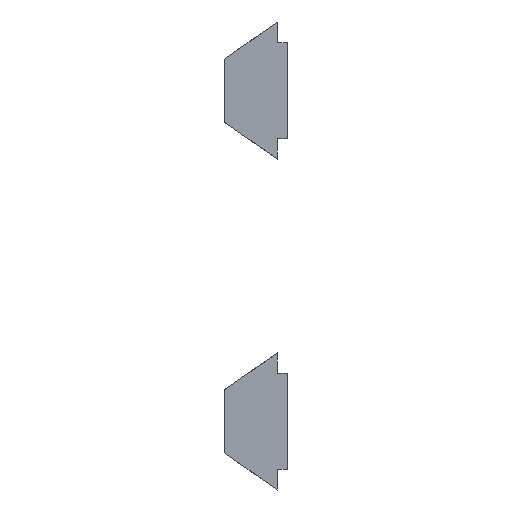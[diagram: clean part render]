
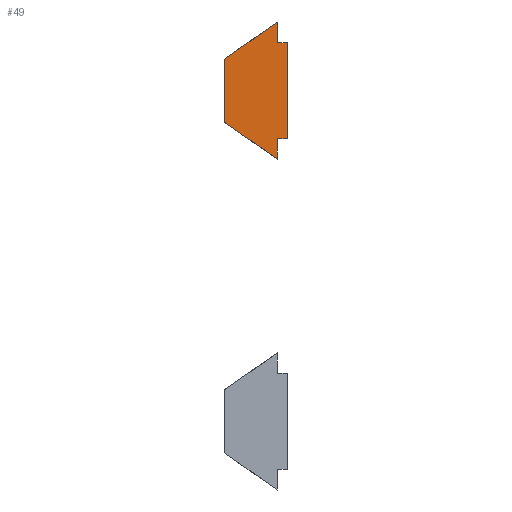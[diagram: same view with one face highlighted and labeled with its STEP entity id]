
A CAD part, left-side view. The second image highlights one B-rep face of the part: STEP entity #49.
In plain terms, the highlighted planar face has unit normal (-1, 0, 0) as drawn and (0, -1, 0) by its records, which use the part's own axes.
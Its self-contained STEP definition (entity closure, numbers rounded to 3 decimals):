
#49=ADVANCED_FACE('',(#62),#511,.T.);
#62=FACE_OUTER_BOUND('',#76,.T.);
#76=EDGE_LOOP('',(#120,#121,#122,#123,#124,#125,#126,#127));
#120=ORIENTED_EDGE('',*,*,#370,.F.);
#121=ORIENTED_EDGE('',*,*,#367,.F.);
#122=ORIENTED_EDGE('',*,*,#362,.F.);
#123=ORIENTED_EDGE('',*,*,#359,.F.);
#124=ORIENTED_EDGE('',*,*,#356,.F.);
#125=ORIENTED_EDGE('',*,*,#353,.F.);
#126=ORIENTED_EDGE('',*,*,#372,.T.);
#127=ORIENTED_EDGE('',*,*,#345,.F.);
#165=PCURVE('',#503,#237);
#174=PCURVE('',#505,#246);
#178=PCURVE('',#506,#250);
#182=PCURVE('',#507,#254);
#186=PCURVE('',#508,#258);
#192=PCURVE('',#509,#264);
#196=PCURVE('',#510,#268);
#200=PCURVE('',#511,#272);
#201=PCURVE('',#511,#273);
#202=PCURVE('',#511,#274);
#203=PCURVE('',#511,#275);
#204=PCURVE('',#511,#276);
#205=PCURVE('',#511,#277);
#206=PCURVE('',#511,#278);
#207=PCURVE('',#511,#279);
#224=PCURVE('',#504,#296);
#237=DEFINITIONAL_REPRESENTATION('',(#386),#1059);
#246=DEFINITIONAL_REPRESENTATION('',(#401),#1059);
#250=DEFINITIONAL_REPRESENTATION('',(#408),#1059);
#254=DEFINITIONAL_REPRESENTATION('',(#415),#1059);
#258=DEFINITIONAL_REPRESENTATION('',(#422),#1059);
#264=DEFINITIONAL_REPRESENTATION('',(#431),#1059);
#268=DEFINITIONAL_REPRESENTATION('',(#438),#1059);
#272=DEFINITIONAL_REPRESENTATION('',(#443),#1059);
#273=DEFINITIONAL_REPRESENTATION('',(#444),#1059);
#274=DEFINITIONAL_REPRESENTATION('',(#445),#1059);
#275=DEFINITIONAL_REPRESENTATION('',(#446),#1059);
#276=DEFINITIONAL_REPRESENTATION('',(#447),#1059);
#277=DEFINITIONAL_REPRESENTATION('',(#448),#1059);
#278=DEFINITIONAL_REPRESENTATION('',(#450),#1059);
#279=DEFINITIONAL_REPRESENTATION('',(#451),#1059);
#296=DEFINITIONAL_REPRESENTATION('',(#468),#1059);
#309=SURFACE_CURVE('',#385,(#165,#207),.PCURVE_S1.);
#317=SURFACE_CURVE('',#400,(#174,#205),.PCURVE_S1.);
#320=SURFACE_CURVE('',#407,(#178,#204),.PCURVE_S1.);
#323=SURFACE_CURVE('',#414,(#182,#203),.PCURVE_S1.);
#326=SURFACE_CURVE('',#421,(#186,#202),.PCURVE_S1.);
#331=SURFACE_CURVE('',#430,(#192,#201),.PCURVE_S1.);
#334=SURFACE_CURVE('',#437,(#196,#200),.PCURVE_S1.);
#336=SURFACE_CURVE('',#449,(#206,#224),.PCURVE_S1.);
#345=EDGE_CURVE('',#477,#478,#309,.T.);
#353=EDGE_CURVE('',#481,#483,#317,.T.);
#356=EDGE_CURVE('',#483,#485,#320,.T.);
#359=EDGE_CURVE('',#485,#487,#323,.T.);
#362=EDGE_CURVE('',#487,#489,#326,.T.);
#367=EDGE_CURVE('',#489,#491,#331,.T.);
#370=EDGE_CURVE('',#491,#477,#334,.T.);
#372=EDGE_CURVE('',#481,#478,#336,.T.);
#385=B_SPLINE_CURVE_WITH_KNOTS('',1,(#714,#715),.UNSPECIFIED.,.F.,.F.,(2,
2),(-3.906,0.),.UNSPECIFIED.);
#386=B_SPLINE_CURVE_WITH_KNOTS('',1,(#716,#717),.UNSPECIFIED.,.F.,.F.,(2,
2),(-3.906,0.),.UNSPECIFIED.);
#400=B_SPLINE_CURVE_WITH_KNOTS('',1,(#790,#791),.UNSPECIFIED.,.F.,.F.,(2,
2),(3.819,7.725),.UNSPECIFIED.);
#401=B_SPLINE_CURVE_WITH_KNOTS('',1,(#792,#793),.UNSPECIFIED.,.F.,.F.,(2,
2),(3.819,7.725),.UNSPECIFIED.);
#407=B_SPLINE_CURVE_WITH_KNOTS('',1,(#804,#805),.UNSPECIFIED.,.F.,.F.,(2,
2),(7.725,8.975),.UNSPECIFIED.);
#408=B_SPLINE_CURVE_WITH_KNOTS('',1,(#806,#807),.UNSPECIFIED.,.F.,.F.,(2,
2),(7.725,8.975),.UNSPECIFIED.);
#414=B_SPLINE_CURVE_WITH_KNOTS('',1,(#818,#819),.UNSPECIFIED.,.F.,.F.,(2,
2),(8.975,9.575),.UNSPECIFIED.);
#415=B_SPLINE_CURVE_WITH_KNOTS('',1,(#820,#821),.UNSPECIFIED.,.F.,.F.,(2,
2),(8.975,9.575),.UNSPECIFIED.);
#421=B_SPLINE_CURVE_WITH_KNOTS('',1,(#832,#833),.UNSPECIFIED.,.F.,.F.,(2,
2),(9.575,15.375),.UNSPECIFIED.);
#422=B_SPLINE_CURVE_WITH_KNOTS('',1,(#834,#835),.UNSPECIFIED.,.F.,.F.,(2,
2),(9.575,15.375),.UNSPECIFIED.);
#430=B_SPLINE_CURVE_WITH_KNOTS('',1,(#906,#907),.UNSPECIFIED.,.F.,.F.,(2,
2),(15.375,15.975),.UNSPECIFIED.);
#431=B_SPLINE_CURVE_WITH_KNOTS('',1,(#908,#909),.UNSPECIFIED.,.F.,.F.,(2,
2),(15.375,15.975),.UNSPECIFIED.);
#437=B_SPLINE_CURVE_WITH_KNOTS('',1,(#920,#921),.UNSPECIFIED.,.F.,.F.,(2,
2),(15.975,17.225),.UNSPECIFIED.);
#438=B_SPLINE_CURVE_WITH_KNOTS('',1,(#922,#923),.UNSPECIFIED.,.F.,.F.,(2,
2),(15.975,17.225),.UNSPECIFIED.);
#443=B_SPLINE_CURVE_WITH_KNOTS('',1,(#932,#933),.UNSPECIFIED.,.F.,.F.,(2,
2),(15.975,17.225),.UNSPECIFIED.);
#444=B_SPLINE_CURVE_WITH_KNOTS('',1,(#934,#935),.UNSPECIFIED.,.F.,.F.,(2,
2),(15.375,15.975),.UNSPECIFIED.);
#445=B_SPLINE_CURVE_WITH_KNOTS('',1,(#936,#937),.UNSPECIFIED.,.F.,.F.,(2,
2),(9.575,15.375),.UNSPECIFIED.);
#446=B_SPLINE_CURVE_WITH_KNOTS('',1,(#938,#939),.UNSPECIFIED.,.F.,.F.,(2,
2),(8.975,9.575),.UNSPECIFIED.);
#447=B_SPLINE_CURVE_WITH_KNOTS('',1,(#940,#941),.UNSPECIFIED.,.F.,.F.,(2,
2),(7.725,8.975),.UNSPECIFIED.);
#448=B_SPLINE_CURVE_WITH_KNOTS('',1,(#942,#943),.UNSPECIFIED.,.F.,.F.,(2,
2),(3.819,7.725),.UNSPECIFIED.);
#449=B_SPLINE_CURVE_WITH_KNOTS('',1,(#944,#945),.UNSPECIFIED.,.F.,.F.,(2,
2),(-3.819,0.),.UNSPECIFIED.);
#450=B_SPLINE_CURVE_WITH_KNOTS('',1,(#946,#947),.UNSPECIFIED.,.F.,.F.,(2,
2),(-3.819,0.),.UNSPECIFIED.);
#451=B_SPLINE_CURVE_WITH_KNOTS('',1,(#948,#949),.UNSPECIFIED.,.F.,.F.,(2,
2),(-3.906,0.),.UNSPECIFIED.);
#468=B_SPLINE_CURVE_WITH_KNOTS('',1,(#1011,#1012),.UNSPECIFIED.,.F.,.F.,
(2,2),(-3.819,0.),.UNSPECIFIED.);
#477=VERTEX_POINT('',#644);
#478=VERTEX_POINT('',#645);
#481=VERTEX_POINT('',#648);
#483=VERTEX_POINT('',#650);
#485=VERTEX_POINT('',#652);
#487=VERTEX_POINT('',#654);
#489=VERTEX_POINT('',#656);
#491=VERTEX_POINT('',#658);
#503=PLANE('',#557);
#504=PLANE('',#558);
#505=PLANE('',#559);
#506=PLANE('',#560);
#507=PLANE('',#561);
#508=PLANE('',#562);
#509=PLANE('',#563);
#510=PLANE('',#564);
#511=PLANE('',#565);
#557=AXIS2_PLACEMENT_3D('',#598,#576,$);
#558=AXIS2_PLACEMENT_3D('',#599,#577,$);
#559=AXIS2_PLACEMENT_3D('',#600,#578,$);
#560=AXIS2_PLACEMENT_3D('',#601,#579,$);
#561=AXIS2_PLACEMENT_3D('',#602,#580,$);
#562=AXIS2_PLACEMENT_3D('',#603,#581,$);
#563=AXIS2_PLACEMENT_3D('',#604,#582,$);
#564=AXIS2_PLACEMENT_3D('',#605,#583,$);
#565=AXIS2_PLACEMENT_3D('',#642,#584,$);
#576=DIRECTION('',(-0.574,0.,-0.819));
#577=DIRECTION('',(-1.,0.,0.));
#578=DIRECTION('',(-0.574,0.,0.819));
#579=DIRECTION('',(1.,0.,0.));
#580=DIRECTION('',(0.,0.,1.));
#581=DIRECTION('',(1.,0.,0.));
#582=DIRECTION('',(0.,0.,-1.));
#583=DIRECTION('',(1.,0.,0.));
#584=DIRECTION('',(0.,-1.,0.));
#598=CARTESIAN_POINT('',(-0.6,-11.,-4.15));
#599=CARTESIAN_POINT('',(-3.8,-11.,-1.909));
#600=CARTESIAN_POINT('',(-3.8,-11.,1.909));
#601=CARTESIAN_POINT('',(-0.6,-11.,4.15));
#602=CARTESIAN_POINT('',(-0.6,-11.,2.9));
#603=CARTESIAN_POINT('',(0.,-11.,2.9));
#604=CARTESIAN_POINT('',(0.,-11.,-2.9));
#605=CARTESIAN_POINT('',(-0.6,-11.,-2.9));
#642=CARTESIAN_POINT('',(-4.275,-11.,5.188));
#644=CARTESIAN_POINT('',(-0.6,-11.,-4.15));
#645=CARTESIAN_POINT('',(-3.8,-11.,-1.909));
#648=CARTESIAN_POINT('',(-3.8,-11.,1.909));
#650=CARTESIAN_POINT('',(-0.6,-11.,4.15));
#652=CARTESIAN_POINT('',(-0.6,-11.,2.9));
#654=CARTESIAN_POINT('',(0.,-11.,2.9));
#656=CARTESIAN_POINT('',(0.,-11.,-2.9));
#658=CARTESIAN_POINT('',(-0.6,-11.,-2.9));
#714=CARTESIAN_POINT('',(-0.6,-11.,-4.15));
#715=CARTESIAN_POINT('',(-3.8,-11.,-1.909));
#716=CARTESIAN_POINT('',(-3.906,0.));
#717=CARTESIAN_POINT('',(0.,0.));
#790=CARTESIAN_POINT('',(-3.8,-11.,1.909));
#791=CARTESIAN_POINT('',(-0.6,-11.,4.15));
#792=CARTESIAN_POINT('',(3.819,0.));
#793=CARTESIAN_POINT('',(7.725,0.));
#804=CARTESIAN_POINT('',(-0.6,-11.,4.15));
#805=CARTESIAN_POINT('',(-0.6,-11.,2.9));
#806=CARTESIAN_POINT('',(7.725,0.));
#807=CARTESIAN_POINT('',(8.975,0.));
#818=CARTESIAN_POINT('',(-0.6,-11.,2.9));
#819=CARTESIAN_POINT('',(0.,-11.,2.9));
#820=CARTESIAN_POINT('',(8.975,0.));
#821=CARTESIAN_POINT('',(9.575,0.));
#832=CARTESIAN_POINT('',(0.,-11.,2.9));
#833=CARTESIAN_POINT('',(0.,-11.,-2.9));
#834=CARTESIAN_POINT('',(9.575,0.));
#835=CARTESIAN_POINT('',(15.375,0.));
#906=CARTESIAN_POINT('',(0.,-11.,-2.9));
#907=CARTESIAN_POINT('',(-0.6,-11.,-2.9));
#908=CARTESIAN_POINT('',(15.375,0.));
#909=CARTESIAN_POINT('',(15.975,0.));
#920=CARTESIAN_POINT('',(-0.6,-11.,-2.9));
#921=CARTESIAN_POINT('',(-0.6,-11.,-4.15));
#922=CARTESIAN_POINT('',(15.975,0.));
#923=CARTESIAN_POINT('',(17.225,0.));
#932=CARTESIAN_POINT('',(-1.25,0.));
#933=CARTESIAN_POINT('',(0.,0.));
#934=CARTESIAN_POINT('',(-1.25,0.6));
#935=CARTESIAN_POINT('',(-1.25,0.));
#936=CARTESIAN_POINT('',(-7.05,0.6));
#937=CARTESIAN_POINT('',(-1.25,0.6));
#938=CARTESIAN_POINT('',(-7.05,0.));
#939=CARTESIAN_POINT('',(-7.05,0.6));
#940=CARTESIAN_POINT('',(-8.3,0.));
#941=CARTESIAN_POINT('',(-7.05,0.));
#942=CARTESIAN_POINT('',(-6.059,-3.2));
#943=CARTESIAN_POINT('',(-8.3,0.));
#944=CARTESIAN_POINT('',(-3.8,-11.,1.909));
#945=CARTESIAN_POINT('',(-3.8,-11.,-1.909));
#946=CARTESIAN_POINT('',(-6.059,-3.2));
#947=CARTESIAN_POINT('',(-2.241,-3.2));
#948=CARTESIAN_POINT('',(0.,0.));
#949=CARTESIAN_POINT('',(-2.241,-3.2));
#1011=CARTESIAN_POINT('',(3.819,0.));
#1012=CARTESIAN_POINT('',(0.,0.));
#1059=(
GEOMETRIC_REPRESENTATION_CONTEXT(2)
PARAMETRIC_REPRESENTATION_CONTEXT()
REPRESENTATION_CONTEXT('pspace','')
);
